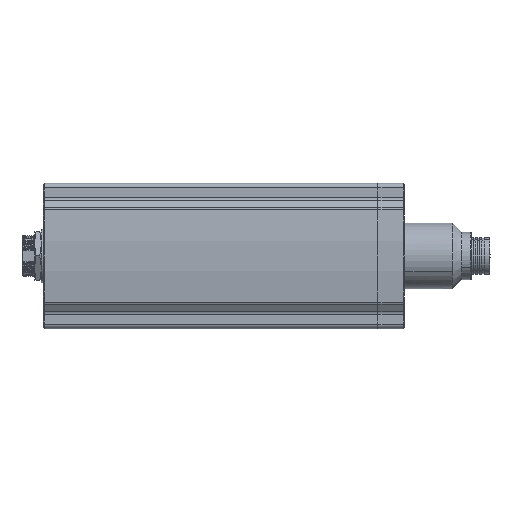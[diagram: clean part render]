
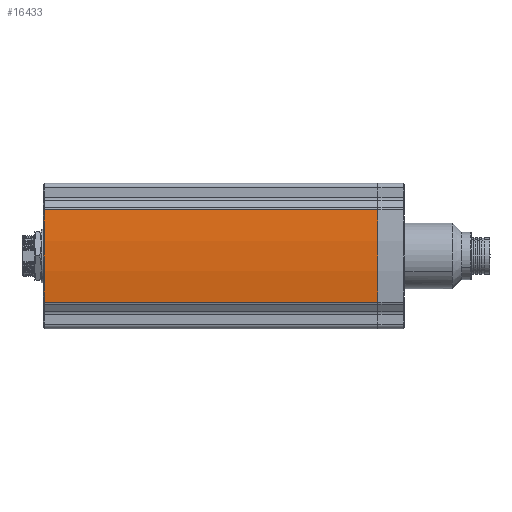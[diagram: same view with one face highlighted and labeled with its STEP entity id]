
A CAD part, front view. The second image highlights one B-rep face of the part: STEP entity #16433.
In plain terms, the highlighted cylindrical face has radius 153.05 mm (diameter 306.1 mm), a partial arc.
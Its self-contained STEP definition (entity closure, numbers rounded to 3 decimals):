
#4033=DIRECTION('',(1.,0.,0.));
#4034=VECTOR('',#4033,151.5);
#4035=CARTESIAN_POINT('',(-103.5,-22.55,
-21.021));
#4036=LINE('',#4035,#4034);
#4041=DIRECTION('',(-1.,0.,0.));
#4042=VECTOR('',#4041,151.5);
#4043=CARTESIAN_POINT('',(48.,-22.55,21.021));
#4044=LINE('',#4043,#4042);
#4078=CARTESIAN_POINT('',(48.,129.05,0.));
#4079=DIRECTION('',(1.,0.,0.));
#4080=DIRECTION('',(0.,-0.991,0.137));
#4081=AXIS2_PLACEMENT_3D('',#4078,#4079,#4080);
#7421=CARTESIAN_POINT('',(-103.5,129.05,0.));
#7422=DIRECTION('',(-1.,0.,0.));
#7423=DIRECTION('',(0.,-0.991,-0.137));
#7424=AXIS2_PLACEMENT_3D('',#7421,#7422,#7423);
#9858=CARTESIAN_POINT('',(-103.5,-22.55,21.021));
#9859=VERTEX_POINT('',#9858);
#9860=CARTESIAN_POINT('',(-103.5,-22.55,-21.021));
#9861=VERTEX_POINT('',#9860);
#10332=CARTESIAN_POINT('',(48.,-22.55,21.021));
#10333=CARTESIAN_POINT('',(48.,-22.55,-21.021));
#10334=VERTEX_POINT('',#10332);
#10335=VERTEX_POINT('',#10333);
#16419=CARTESIAN_POINT('',(-99.,129.05,0.));
#16420=DIRECTION('',(-1.,0.,0.));
#16421=DIRECTION('',(0.,0.,1.));
#16422=AXIS2_PLACEMENT_3D('',#16419,#16420,#16421);
#16423=CYLINDRICAL_SURFACE('',#16422,153.05);
#16425=ORIENTED_EDGE('',*,*,#16424,.F.);
#16427=ORIENTED_EDGE('',*,*,#16426,.T.);
#16428=ORIENTED_EDGE('',*,*,#16409,.F.);
#16430=ORIENTED_EDGE('',*,*,#16429,.T.);
#16431=EDGE_LOOP('',(#16425,#16427,#16428,#16430));
#16432=FACE_OUTER_BOUND('',#16431,.F.);
#16433=ADVANCED_FACE('',(#16432),#16423,.T.);
#4082=CIRCLE('',#4081,153.05);
#7425=CIRCLE('',#7424,153.05);
#16409=EDGE_CURVE('',#9861,#10335,#4036,.T.);
#16424=EDGE_CURVE('',#10334,#9859,#4044,.T.);
#16426=EDGE_CURVE('',#10334,#10335,#4082,.T.);
#16429=EDGE_CURVE('',#9861,#9859,#7425,.T.);
